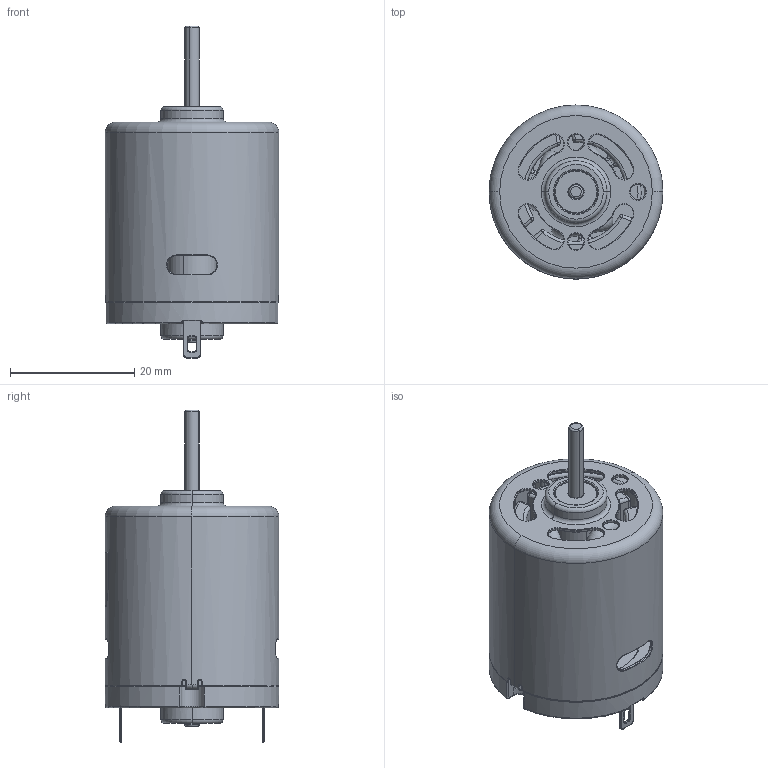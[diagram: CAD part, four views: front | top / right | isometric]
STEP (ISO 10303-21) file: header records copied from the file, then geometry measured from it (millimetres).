
FILE_DESCRIPTION (( 'STEP AP214' ), '1' );
FILE_NAME ('DC Motor 12V.STEP', '2012-08-20T22:31:01', ( 'Casa' ), ( 'Casa' ), 'SwSTEP 2.0', 'SolidWorks 2007', '' );
FILE_SCHEMA (( 'AUTOMOTIVE_DESIGN' ));
Length unit declared in the file: millimetre
Products named in the file (8): Mancal12V_Predeterminado; Carcaça12V_Predeterminado; Bucha12V_Predeterminado; Terminal12V_Predeterminado; Imã12V_Predeterminado; Enrolamento12V_Predeterminado; Eixo12V_Predeterminado; DC Motor 12V
Assembly tree (11 placements, depth 2):
  DC Motor 12V
    Carcaça12V_Predeterminado
    Terminal12V_Predeterminado  x2
    Imã12V_Predeterminado  x2
    Bucha12V_Predeterminado
    Eixo12V_Predeterminado
    Mancal12V_Predeterminado
    Enrolamento12V_Predeterminado  x3
Bounding box: 28 x 28 x 53.5 mm (x, y, z)
Volume: 12209.6 mm3; surface area: 16035.8 mm2
Topology: 11 solids, 11 shells, 1925 faces, 4792 edges, 2913 vertices
Faces by surface type: plane 539, bspline 505, cylinder 449, torus 342, sphere 90
Entity records: 72589 total; most frequent: CARTESIAN_POINT 32754, ORIENTED_EDGE 8788, DIRECTION 7381, EDGE_CURVE 4394, AXIS2_PLACEMENT_3D 2751, VERTEX_POINT 2709, EDGE_LOOP 1907, VECTOR 1879
